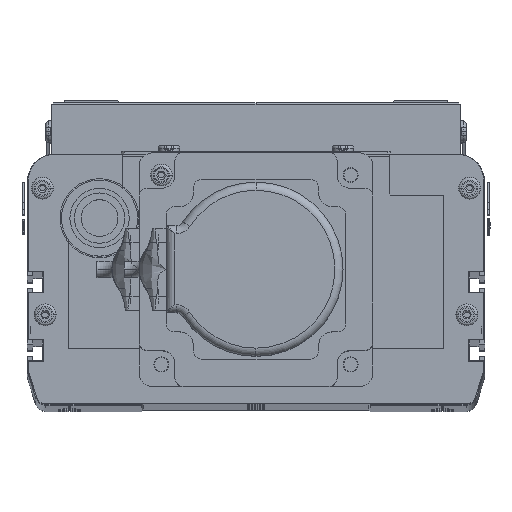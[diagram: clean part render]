
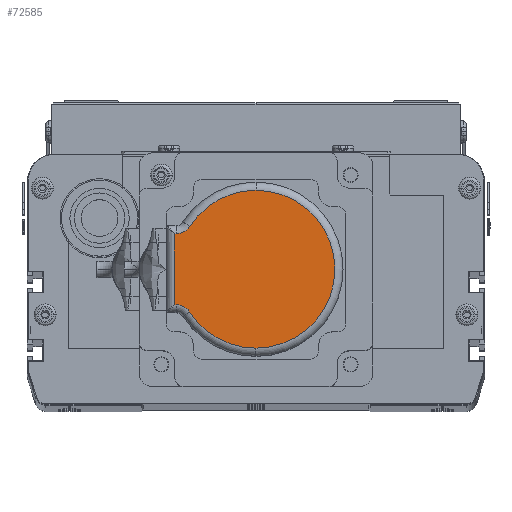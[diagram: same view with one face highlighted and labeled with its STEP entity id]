
A CAD part, top view. The second image highlights one B-rep face of the part: STEP entity #72585.
In plain terms, the highlighted planar face has unit normal (0, 0, 1).
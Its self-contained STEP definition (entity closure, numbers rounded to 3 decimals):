
#72585 = ADVANCED_FACE ( 'NONE', ( #74064 ), #74047, .T. ) ;
#72586 = ORIENTED_EDGE ( 'NONE', *, *, #72740, .F. ) ;
#72615 = VERTEX_POINT ( 'NONE', #74530 ) ;
#72618 = EDGE_CURVE ( 'NONE', #72615, #72619, #74506, .T. ) ;
#72619 = VERTEX_POINT ( 'NONE', #74507 ) ;
#72696 = EDGE_CURVE ( 'NONE', #72619, #72831, #74483, .T. ) ;
#72735 = ORIENTED_EDGE ( 'NONE', *, *, #72696, .T. ) ;
#72737 = VERTEX_POINT ( 'NONE', #74698 ) ;
#72740 = EDGE_CURVE ( 'NONE', #72615, #72906, #74617, .T. ) ;
#72778 = EDGE_CURVE ( 'NONE', #72831, #72779, #74782, .T. ) ;
#72779 = VERTEX_POINT ( 'NONE', #74645 ) ;
#72790 = EDGE_CURVE ( 'NONE', #72972, #72737, #74329, .T. ) ;
#72798 = EDGE_CURVE ( 'NONE', #72997, #72906, #74805, .T. ) ;
#72823 = EDGE_LOOP ( 'NONE', ( #72586, #73032, #72735, #72905, #73130, #73007, #73029, #73006 ) ) ;
#72831 = VERTEX_POINT ( 'NONE', #74927 ) ;
#72899 = EDGE_CURVE ( 'NONE', #72972, #72779, #75398, .T. ) ;
#72905 = ORIENTED_EDGE ( 'NONE', *, *, #72778, .T. ) ;
#72906 = VERTEX_POINT ( 'NONE', #75111 ) ;
#72972 = VERTEX_POINT ( 'NONE', #75410 ) ;
#72997 = VERTEX_POINT ( 'NONE', #75733 ) ;
#73006 = ORIENTED_EDGE ( 'NONE', *, *, #72798, .T. ) ;
#73007 = ORIENTED_EDGE ( 'NONE', *, *, #72790, .T. ) ;
#73008 = EDGE_CURVE ( 'NONE', #72737, #72997, #75737, .T. ) ;
#73029 = ORIENTED_EDGE ( 'NONE', *, *, #73008, .T. ) ;
#73032 = ORIENTED_EDGE ( 'NONE', *, *, #72618, .T. ) ;
#73130 = ORIENTED_EDGE ( 'NONE', *, *, #72899, .F. ) ;
#74047 = PLANE ( 'NONE',  #74059 ) ;
#74054 = DIRECTION ( 'NONE',  ( 1., 0., 0. ) ) ;
#74055 = DIRECTION ( 'NONE',  ( 0., 0., 1. ) ) ;
#74058 = CARTESIAN_POINT ( 'NONE',  ( 33., 33., 26. ) ) ;
#74059 = AXIS2_PLACEMENT_3D ( 'NONE', #74058, #74055, #74054 ) ;
#74064 = FACE_OUTER_BOUND ( 'NONE', #72823, .T. ) ;
#74328 = CARTESIAN_POINT ( 'NONE',  ( 46., 33., 26. ) ) ;
#74329 = LINE ( 'NONE', #74328, #74470 ) ;
#74434 = DIRECTION ( 'NONE',  ( 1., 0., 0. ) ) ;
#74435 = DIRECTION ( 'NONE',  ( 0., 0., 1. ) ) ;
#74436 = CARTESIAN_POINT ( 'NONE',  ( 33., 33., 26. ) ) ;
#74437 = AXIS2_PLACEMENT_3D ( 'NONE', #74436, #74435, #74434 ) ;
#74470 = VECTOR ( 'NONE', #74526, 1000. ) ;
#74475 = DIRECTION ( 'NONE',  ( 0., 0., 1. ) ) ;
#74483 = CIRCLE ( 'NONE', #74602, 29. ) ;
#74506 = CIRCLE ( 'NONE', #74437, 29. ) ;
#74507 = CARTESIAN_POINT ( 'NONE',  ( 4., 33., 26. ) ) ;
#74525 = DIRECTION ( 'NONE',  ( 1., 0., 0. ) ) ;
#74526 = DIRECTION ( 'NONE',  ( 0., 1., 0. ) ) ;
#74529 = CARTESIAN_POINT ( 'NONE',  ( 33., 33., 26. ) ) ;
#74530 = CARTESIAN_POINT ( 'NONE',  ( 17.257, 57.355, 26. ) ) ;
#74602 = AXIS2_PLACEMENT_3D ( 'NONE', #74529, #74475, #74525 ) ;
#74617 = CIRCLE ( 'NONE', #74772, 6. ) ;
#74641 = DIRECTION ( 'NONE',  ( 0., 0., 1. ) ) ;
#74642 = CARTESIAN_POINT ( 'NONE',  ( 33., 33., 26. ) ) ;
#74643 = AXIS2_PLACEMENT_3D ( 'NONE', #74642, #74641, #74731 ) ;
#74645 = CARTESIAN_POINT ( 'NONE',  ( 48.743, 57.355, 26. ) ) ;
#74692 = CARTESIAN_POINT ( 'NONE',  ( 14., 62.394, 26. ) ) ;
#74698 = CARTESIAN_POINT ( 'NONE',  ( 46., 63., 26. ) ) ;
#74731 = DIRECTION ( 'NONE',  ( 1., 0., 0. ) ) ;
#74756 = DIRECTION ( 'NONE',  ( 1., 0., 0. ) ) ;
#74757 = DIRECTION ( 'NONE',  ( 0., 0., 1. ) ) ;
#74772 = AXIS2_PLACEMENT_3D ( 'NONE', #74692, #74757, #74756 ) ;
#74782 = CIRCLE ( 'NONE', #74643, 29. ) ;
#74805 = LINE ( 'NONE', #74987, #74986 ) ;
#74821 = DIRECTION ( 'NONE',  ( 0., -1., 0. ) ) ;
#74927 = CARTESIAN_POINT ( 'NONE',  ( 62., 33., 26. ) ) ;
#74986 = VECTOR ( 'NONE', #74821, 1000. ) ;
#74987 = CARTESIAN_POINT ( 'NONE',  ( 20., 33., 26. ) ) ;
#75111 = CARTESIAN_POINT ( 'NONE',  ( 20., 62.394, 26. ) ) ;
#75394 = DIRECTION ( 'NONE',  ( 1., 0., 0. ) ) ;
#75395 = DIRECTION ( 'NONE',  ( 0., 0., 1. ) ) ;
#75396 = CARTESIAN_POINT ( 'NONE',  ( 52., 62.394, 26. ) ) ;
#75397 = AXIS2_PLACEMENT_3D ( 'NONE', #75396, #75395, #75394 ) ;
#75398 = CIRCLE ( 'NONE', #75397, 6. ) ;
#75410 = CARTESIAN_POINT ( 'NONE',  ( 46., 62.394, 26. ) ) ;
#75718 = DIRECTION ( 'NONE',  ( -1., 0., 0. ) ) ;
#75719 = VECTOR ( 'NONE', #75718, 1000. ) ;
#75720 = CARTESIAN_POINT ( 'NONE',  ( 17.5, 63., 26. ) ) ;
#75733 = CARTESIAN_POINT ( 'NONE',  ( 20., 63., 26. ) ) ;
#75737 = LINE ( 'NONE', #75720, #75719 ) ;
